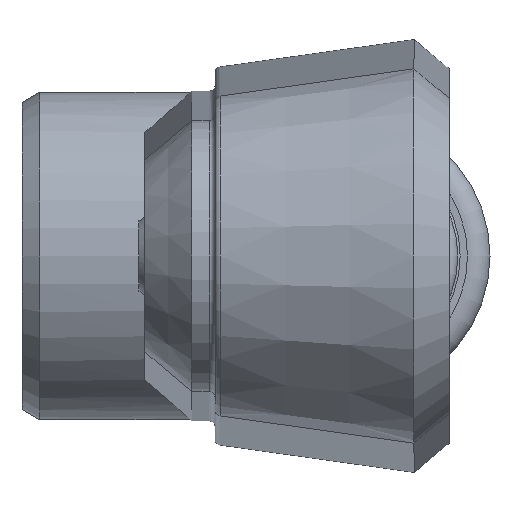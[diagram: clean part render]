
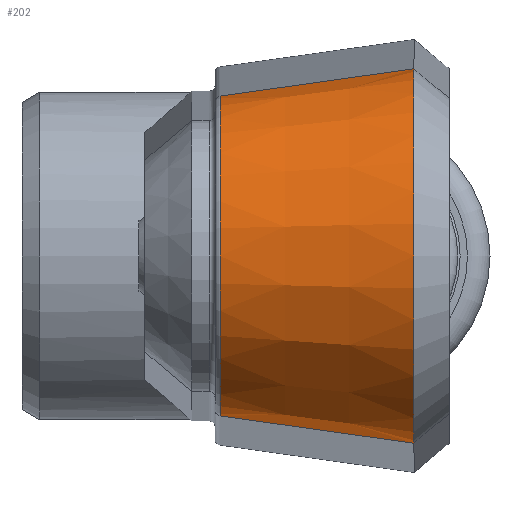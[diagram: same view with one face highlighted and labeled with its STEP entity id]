
A CAD part, front view. The second image highlights one B-rep face of the part: STEP entity #202.
In plain terms, the highlighted conical face has half-angle 8 degrees and reference radius 16 mm.
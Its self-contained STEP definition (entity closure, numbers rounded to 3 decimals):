
#202 = ADVANCED_FACE( '', ( #346 ), #347, .T. );
#346 = FACE_OUTER_BOUND( '', #626, .T. );
#347 = CONICAL_SURFACE( '', #627, 16., 0.14 );
#626 = EDGE_LOOP( '', ( #1035, #1036, #1037, #1038 ) );
#627 = AXIS2_PLACEMENT_3D( '', #1039, #1040, #1041 );
#1035 = ORIENTED_EDGE( '', *, *, #1624, .F. );
#1036 = ORIENTED_EDGE( '', *, *, #1607, .F. );
#1037 = ORIENTED_EDGE( '', *, *, #1625, .T. );
#1038 = ORIENTED_EDGE( '', *, *, #1621, .T. );
#1039 = CARTESIAN_POINT( '', ( 17.797, -125., 0. ) );
#1040 = DIRECTION( '', ( 1., 0., 0. ) );
#1041 = DIRECTION( '', ( 0., 0., -1. ) );
#1607 = EDGE_CURVE( '', #1911, #1913, #1914, .T. );
#1621 = EDGE_CURVE( '', #1922, #1937, #1939, .T. );
#1624 = EDGE_CURVE( '', #1913, #1937, #1942, .T. );
#1625 = EDGE_CURVE( '', #1911, #1922, #1943, .T. );
#1911 = VERTEX_POINT( '', #2418 );
#1913 = VERTEX_POINT( '', #2421 );
#1914 = B_SPLINE_CURVE_WITH_KNOTS( '', 3, ( #2422, #2423, #2424, #2425 ), .UNSPECIFIED., .F., .F., ( 4, 4 ), ( 0., 0.804 ), .UNSPECIFIED. );
#1922 = VERTEX_POINT( '', #2447 );
#1937 = VERTEX_POINT( '', #2486 );
#1939 = B_SPLINE_CURVE_WITH_KNOTS( '', 3, ( #2491, #2492, #2493, #2494 ), .UNSPECIFIED., .F., .F., ( 4, 4 ), ( 0., 1. ), .UNSPECIFIED. );
#1942 = CIRCLE( '', #2497, 13.672 );
#1943 = CIRCLE( '', #2498, 16. );
#2418 = CARTESIAN_POINT( '', ( 17.797, -125., -16. ) );
#2421 = CARTESIAN_POINT( '', ( 1.23, -125., -13.672 ) );
#2422 = CARTESIAN_POINT( '', ( 17.797, -125., -16. ) );
#2423 = CARTESIAN_POINT( '', ( 12.275, -125., -15.224 ) );
#2424 = CARTESIAN_POINT( '', ( 6.755, -125., -14.448 ) );
#2425 = CARTESIAN_POINT( '', ( 1.23, -125., -13.672 ) );
#2447 = CARTESIAN_POINT( '', ( 17.797, -125., 16. ) );
#2486 = CARTESIAN_POINT( '', ( 1.23, -125., 13.672 ) );
#2491 = CARTESIAN_POINT( '', ( 17.797, -125., 16. ) );
#2492 = CARTESIAN_POINT( '', ( 12.275, -125., 15.224 ) );
#2493 = CARTESIAN_POINT( '', ( 6.753, -125., 14.448 ) );
#2494 = CARTESIAN_POINT( '', ( 1.23, -125., 13.672 ) );
#2497 = AXIS2_PLACEMENT_3D( '', #2876, #2877, #2878 );
#2498 = AXIS2_PLACEMENT_3D( '', #2879, #2880, #2881 );
#2876 = CARTESIAN_POINT( '', ( 1.23, -125., 0. ) );
#2877 = DIRECTION( '', ( -1., 0., 0. ) );
#2878 = DIRECTION( '', ( 0., 0., 1. ) );
#2879 = CARTESIAN_POINT( '', ( 17.797, -125., 0. ) );
#2880 = DIRECTION( '', ( -1., 0., 0. ) );
#2881 = DIRECTION( '', ( 0., 0., 1. ) );
